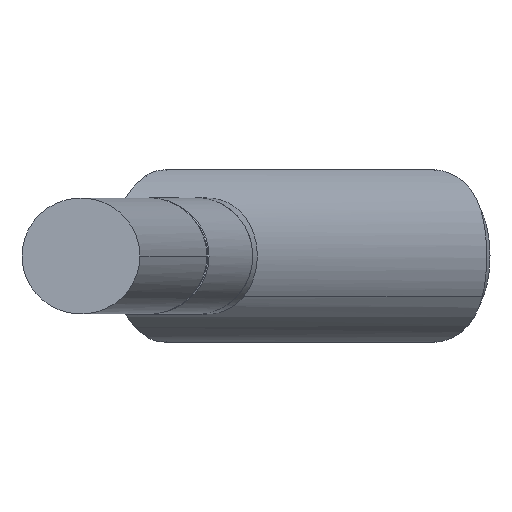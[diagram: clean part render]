
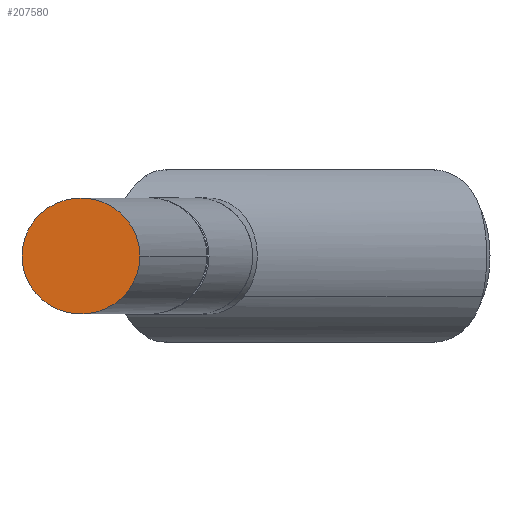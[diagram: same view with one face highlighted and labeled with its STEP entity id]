
A CAD part, front view. The second image highlights one B-rep face of the part: STEP entity #207580.
In plain terms, the highlighted planar face has unit normal (0, -1, 0) as drawn and (0.875, -0.259, -0.408) by its records, which use the part's own axes.
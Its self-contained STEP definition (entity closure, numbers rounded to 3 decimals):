
#207380=CARTESIAN_POINT('',(253.104,16.167,
-101.243));
#207390=DIRECTION('',(-0.875,0.259,
0.408));
#207400=DIRECTION('',(-0.235,-0.966,
0.109));
#207410=AXIS2_PLACEMENT_3D('',#207380,#207390,#207400);
#207420=PLANE('',#207410);
#207430=CARTESIAN_POINT('',(245.404,-15.54,
-97.652));
#207440=DIRECTION('',(-0.875,0.259,
0.408));
#207450=DIRECTION('',(-0.235,-0.966,
0.109));
#207460=AXIS2_PLACEMENT_3D('',#207430,#207440,#207450);
#207470=ELLIPSE('',#207460,27.924,27.5);
#207480=CARTESIAN_POINT('',(238.854,-42.512,
-94.598));
#207490=VERTEX_POINT('',#207480);
#207500=CARTESIAN_POINT('',(251.954,11.433,
-100.707));
#207510=VERTEX_POINT('',#207500);
#207520=EDGE_CURVE('',#207490,#207510,#207470,.T.);
#207530=ORIENTED_EDGE('',*,*,#207520,.F.);
#207540=EDGE_CURVE('',#207510,#207490,#207470,.T.);
#207550=ORIENTED_EDGE('',*,*,#207540,.F.);
#207560=EDGE_LOOP('',(#207550,#207530));
#207570=FACE_OUTER_BOUND('',#207560,.T.);
#207580=ADVANCED_FACE('',(#207570),#207420,.F.);
